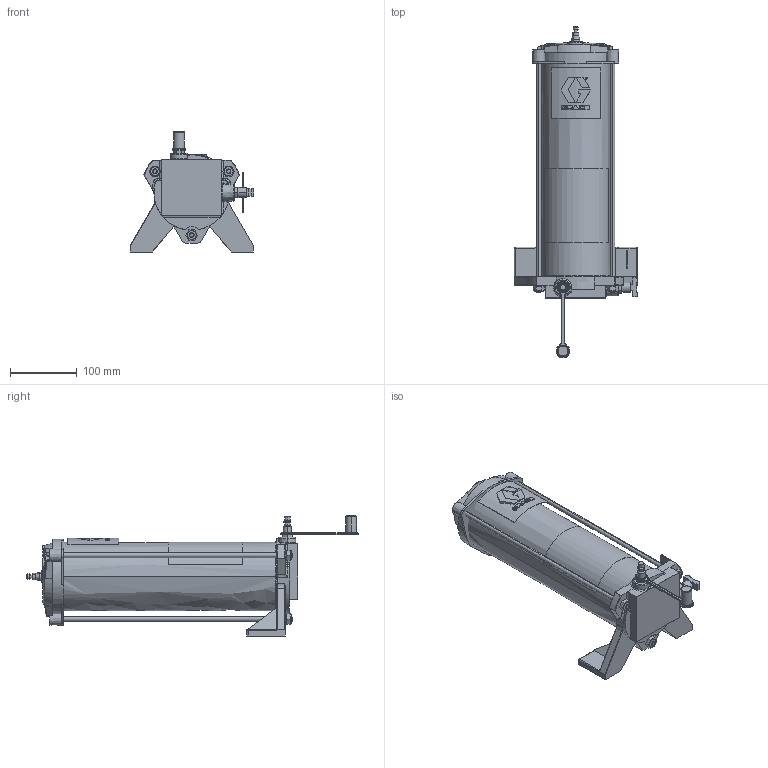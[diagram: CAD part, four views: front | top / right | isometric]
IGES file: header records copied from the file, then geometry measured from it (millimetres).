
Start section:  PTC IGES file: 562888-en-f.igs
Global section: file name: 562888-en-f.igs; native system: Creo Parametric by PTC Inc.; preprocessor: 2021072; author: qufmd1; organization: Unknown; date: 20220621.145323; units: inch
Bounding box: 184.99 x 496.06 x 179.37 mm (x, y, z)
Surface area: 274586.5 mm2 (no closed solid volume)
Topology: 0 solids, 0 shells, 471 faces, 2921 edges, 2921 vertices
Faces by surface type: bspline 239, revolution 232
